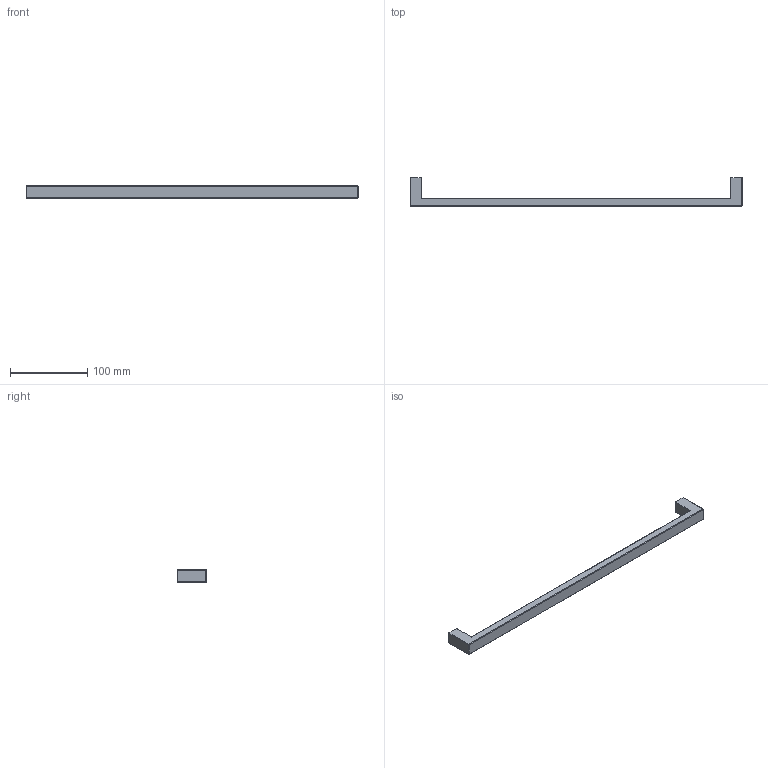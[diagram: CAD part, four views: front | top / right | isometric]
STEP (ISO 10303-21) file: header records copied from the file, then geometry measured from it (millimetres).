
FILE_DESCRIPTION( ( '' ), '1' );
FILE_NAME( 'C:/Documents and Settings/Sachin/Desktop/Sheet 10_1/stp/9113252.stp', '2013-10-22T06:57:25', ( '' ), ( '' ), ' ', ' ', ' ' );
FILE_SCHEMA( ( 'CONFIG_CONTROL_DESIGN' ) );
Length unit declared in the file: millimetre
Products named in the file (1): 1
Bounding box: 431 x 37 x 16 mm (x, y, z)
Volume: 81615.9 mm3; surface area: 25855.7 mm2
Topology: 1 solids, 1 shells, 36 faces, 88 edges, 56 vertices
Faces by surface type: cylinder 20, plane 16
Entity records: 1108 total; most frequent: DIRECTION 198, CARTESIAN_POINT 181, ORIENTED_EDGE 176, EDGE_CURVE 88, AXIS2_PLACEMENT_3D 73, VERTEX_POINT 56, LINE 52, VECTOR 52
